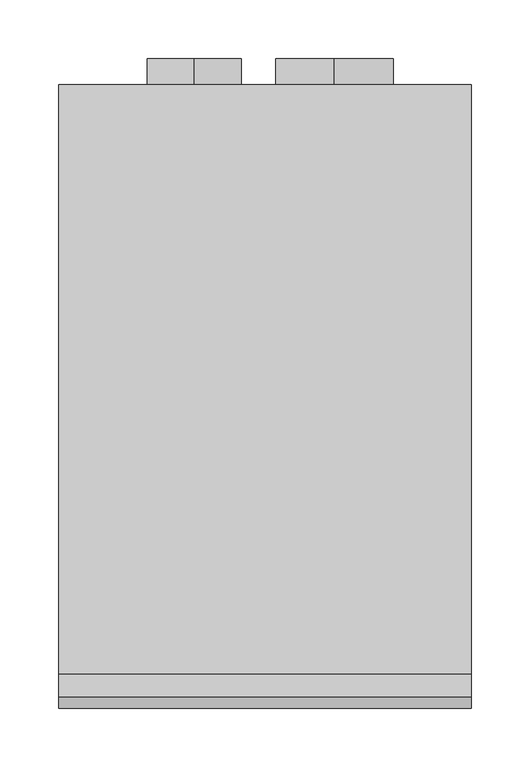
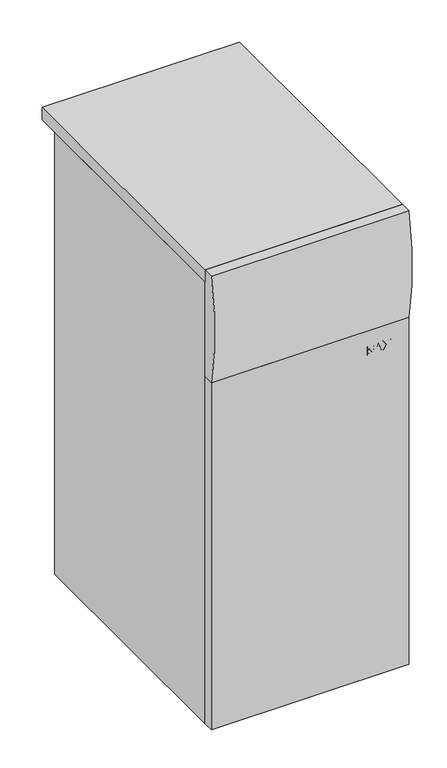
"""IFC4 building model written with IfcOpenShell, lengths in millimetres: proxy geometry, BAXI_ГазовыйКотел_slim-FiN : BAXI_Газовый котел_Slim_1.230_FiN."""

from ifc_helpers import new_model, si_unit, point, frame, frame_2d, origin, origin_with_axes, place, context, project, spatial, polyline, circle_curve, trimmed, segment, composite_curve, outline, extrude, source, transform, mapped, element, save


def mechanical_equipment_2a8ce769(model_context):
    return source(origin(), model_context, "Body", "SweptSolid", [
        extrude(outline(polyline([(175.0, -22.0), (175.0, -522.5), (-175.0, -522.5), (-175.0, -22.0), (175.0, -22.0)])), frame((0.0, 0.0, 827.0), z_axis=(0.0, 0.0, 1.0), x_axis=(1.0, 0.0, 0.0)), (0.0, 0.0, 1.0), 23.0),
        extrude(outline(composite_curve([segment(trimmed(circle_curve(frame_2d((731.0, 59.0)), 50.0), [point((681.0, 59.0))], [point((781.0, 59.0))], False, "CARTESIAN"), True, "CONTINUOUS"), segment(trimmed(circle_curve(frame_2d((731.0, 59.0)), 50.0), [point((781.0, 59.0))], [point((681.0, 59.0))], False, "CARTESIAN"), True, "CONTINUOUS")], self_intersect=False)), frame((0.0, -61.0, 0.0), z_axis=(0.0, 1.0, 0.0), x_axis=(0.0, 0.0, 1.0)), (0.0, 0.0, 1.0), 61.0),
        extrude(outline(composite_curve([segment(trimmed(circle_curve(frame_2d((749.0, -60.0)), 40.0), [point((709.0, -60.0))], [point((789.0, -60.0))], False, "CARTESIAN"), True, "CONTINUOUS"), segment(trimmed(circle_curve(frame_2d((749.0, -60.0)), 40.0), [point((789.0, -60.0))], [point((709.0, -60.0))], False, "CARTESIAN"), True, "CONTINUOUS")], self_intersect=False)), frame((0.0, -61.0, 0.0), z_axis=(0.0, 1.0, 0.0), x_axis=(0.0, 0.0, 1.0)), (0.0, 0.0, 1.0), 61.0),
        extrude(outline(composite_curve([segment(polyline([(-522.5, 849.5501658), (-522.5, 650.0), (-542.0, 650.0)]), True, "CONTINUOUS"), segment(trimmed(circle_curve(frame_2d((-105.8120833, 749.7750829)), 447.4538701), [point((-542.0, 650.0))], [point((-542.0, 849.5501658))], False, "CARTESIAN"), True, "CONTINUOUS"), segment(polyline([(-542.0, 849.5501658), (-522.5, 849.5501658)]), True, "CONTINUOUS")], self_intersect=False)), frame((-175.0, 0.0, 0.0), z_axis=(1.0, 0.0, 0.0), x_axis=(0.0, 1.0, 0.0)), (0.0, 0.0, 1.0), 350.0),
        extrude(outline(polyline([(175.0, -522.5), (175.0, -542.0), (-175.0, -542.0), (-175.0, -522.5), (175.0, -522.5)])), origin_with_axes(), (0.0, 0.0, 1.0), 650.0),
        extrude(outline(composite_curve([segment(trimmed(circle_curve(frame_2d((453.0, 157.0)), 7.5), [point((445.5, 157.0))], [point((460.5, 157.0))], False, "CARTESIAN"), True, "CONTINUOUS"), segment(trimmed(circle_curve(frame_2d((453.0, 157.0)), 7.5), [point((460.5, 157.0))], [point((445.5, 157.0))], False, "CARTESIAN"), True, "CONTINUOUS")], self_intersect=False)), frame((0.0, -61.0, 0.0), z_axis=(0.0, 1.0, 0.0), x_axis=(0.0, 0.0, 1.0)), (0.0, 0.0, 1.0), 39.0),
        extrude(outline(composite_curve([segment(trimmed(circle_curve(frame_2d((522.0, -93.0)), 10.0), [point((512.0, -93.0))], [point((532.0, -93.0))], False, "CARTESIAN"), True, "CONTINUOUS"), segment(trimmed(circle_curve(frame_2d((522.0, -93.0)), 10.0), [point((532.0, -93.0))], [point((512.0, -93.0))], False, "CARTESIAN"), True, "CONTINUOUS")], self_intersect=False)), frame((0.0, -61.0, 0.0), z_axis=(0.0, 1.0, 0.0), x_axis=(0.0, 0.0, 1.0)), (0.0, 0.0, 1.0), 39.0),
        extrude(outline(composite_curve([segment(trimmed(circle_curve(frame_2d((72.0, 97.0)), 10.0), [point((62.0, 97.0))], [point((82.0, 97.0))], False, "CARTESIAN"), True, "CONTINUOUS"), segment(trimmed(circle_curve(frame_2d((72.0, 97.0)), 10.0), [point((82.0, 97.0))], [point((62.0, 97.0))], False, "CARTESIAN"), True, "CONTINUOUS")], self_intersect=False)), frame((0.0, -61.0, 0.0), z_axis=(0.0, 1.0, 0.0), x_axis=(0.0, 0.0, 1.0)), (0.0, 0.0, 1.0), 39.0),
        extrude(outline(polyline([(175.0, -61.0), (175.0, -522.5), (-175.0, -522.5), (-175.0, -61.0), (175.0, -61.0)])), origin_with_axes(), (0.0, 0.0, 1.0), 827.0),
        extrude(outline(polyline([(620.4221594, 101.2498993), (605.1182684, 101.2498993), (605.1182684, 106.480247), (605.2207498, 110.2227163), (605.9438131, 112.3046073), (607.5113991, 113.6368656), (609.5325603, 114.1246012), (611.8289031, 113.4451874), (613.2105044, 111.5018362), (614.5655364, 113.0637288), (616.5468437, 113.6387634), (618.3478596, 113.1567212), (619.6345707, 111.9516157), (620.270335, 110.3119131), (620.4221594, 107.5316303), (620.4221594, 101.2498993)]), holes=[polyline([(617.7500514, 104.1649262), (617.7500514, 106.1158686), (614.3985296, 108.8562975), (614.3491867, 106.3891524), (614.3491867, 104.1649262), (617.7500514, 104.1649262)]), polyline([(611.6770788, 104.1649262), (611.6770788, 106.8560121), (607.8814709, 109.5319157), (607.7903763, 107.2469598), (607.7903763, 104.1649262), (611.6770788, 104.1649262)])]), frame((0.0, -542.0, 0.0), z_axis=(0.0, 1.0, 0.0), x_axis=(0.0, 0.0, 1.0)), (0.0, 0.0, 1.0), 5.0),
        extrude(outline(polyline([(605.1182684, 129.4284922), (620.4221594, 123.7882189), (620.4221594, 120.6834117), (605.1182684, 115.0962769), (605.1182684, 118.2010841), (608.519133, 119.3853138), (608.519133, 125.1660246), (605.1182684, 126.3654367), (605.1182684, 129.4284922)]), holes=[polyline([(611.191241, 124.2323051), (611.191241, 120.3190333), (616.7783758, 122.2623846), (611.191241, 124.2323051)])]), frame((0.0, -542.0, 0.0), z_axis=(0.0, 1.0, 0.0), x_axis=(0.0, 0.0, 1.0)), (0.0, 0.0, 1.0), 5.0),
        extrude(outline(polyline([(605.1182684, 129.5499517), (605.1182684, 132.9584076), (610.523214, 136.4731405), (605.1182684, 139.9878734), (605.1182684, 143.3963293), (613.1421834, 138.1773684), (620.4221594, 142.9104915), (620.4221594, 139.5020356), (615.7649485, 136.4731405), (620.4221594, 133.4442454), (620.4221594, 130.0357895), (613.1421834, 134.7689125), (605.1182684, 129.5499517)])), frame((0.0, -542.0, 0.0), z_axis=(0.0, 1.0, 0.0), x_axis=(0.0, 0.0, 1.0)), (0.0, 0.0, 1.0), 5.0),
        extrude(outline(polyline([(144.9753022, -537.0), (147.890329, -537.0), (147.890329, -542.0), (144.9753022, -542.0), (144.9753022, -537.0)])), frame((0.0, 0.0, 605.1182684), z_axis=(0.0, 0.0, 1.0), x_axis=(1.0, 0.0, 0.0)), (0.0, 0.0, 1.0), 15.303891),
    ])


if __name__ == "__main__":
    model = new_model("IFC4")
    model_context = context("Model", 3, world=origin())
    ifc_project = project(units=[si_unit("LENGTHUNIT", "METRE", prefix="MILLI")], contexts=[model_context])
    site = spatial("IfcSite", under=ifc_project)
    building = spatial("IfcBuilding", under=site)
    placement = place(None, origin())
    mechanical_equipment_shape = mechanical_equipment_2a8ce769(model_context)
    element("IfcBuildingElementProxy", 1, Name="BAXI_ГазовыйКотел_slim-FiN : BAXI_Газовый котел_Slim_1.230_FiN", ObjectType="BAXI_ГазовыйКотел_slim-FiN : BAXI_Газовый котел_Slim_1.230_FiN", at=placement, inside=building, context=model_context, shape_type="MappedRepresentation", body=[
        mapped(mechanical_equipment_shape, transform((0.0, 0.0, 0.0), x_axis=(1.0, 0.0, 0.0), y_axis=(0.0, 1.0, 0.0), z_axis=(0.0, 0.0, 1.0))),
    ])
    save(model, "model.ifc")
